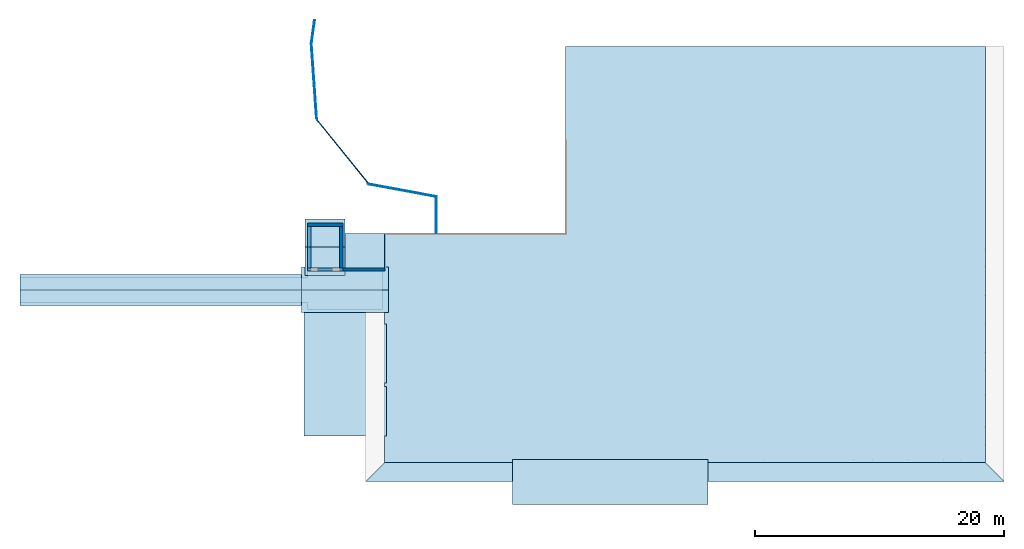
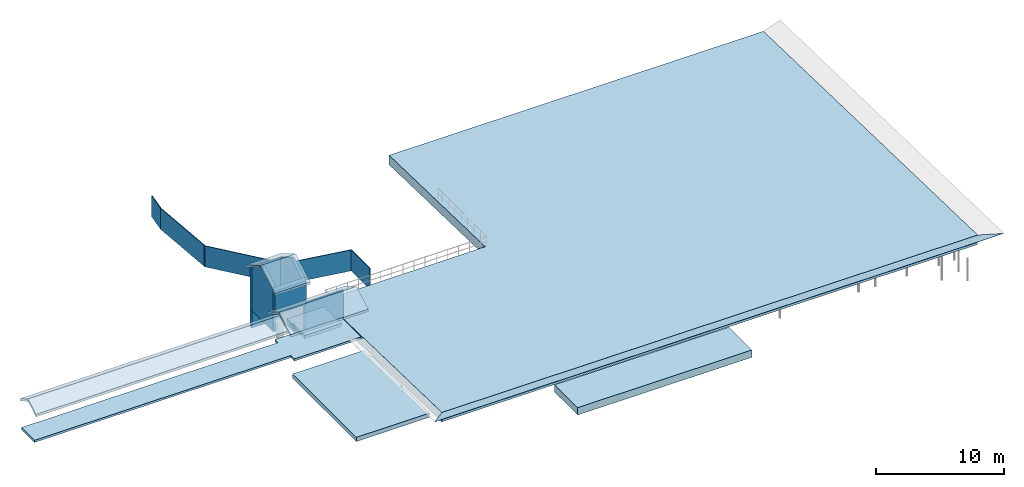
# One storey, part 1 of 7: 12 slabs, 10 walls, 8 elements without a shape of their own.
"""IFC2X3 building model written with IfcOpenShell, lengths in millimetres."""

from ifc_helpers import new_model, entity, si_unit, converted_unit, derived_unit, direction, frame, frame_2d, origin, place, context, subcontext, project, spatial, polyline, rectangle, outline, extrude, clip, bounded_halfspace, faceted_brep, material, layer, layer_set, layer_usage, type_object, element, aggregate, save


model = new_model("IFC2X3")

# Units and contexts
model_context = context("Model", 3, precision=0.01, world=origin(), true_north=direction((0.7716245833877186, 0.6360782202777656)))
body_context = subcontext(model_context, "Body", "Model", "MODEL_VIEW")
ifc_project = project(units=[si_unit("LENGTHUNIT", "METRE", prefix="MILLI"), si_unit("AREAUNIT", "SQUARE_METRE"), converted_unit("PLANEANGLEUNIT", "DEGREE", entity("IfcPlaneAngleMeasure", 0.017453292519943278), si_unit("PLANEANGLEUNIT", "RADIAN"), dimensions=[0, 0, 0, 0, 0, 0, 0]), derived_unit("THERMALTRANSMITTANCEUNIT", [(si_unit("MASSUNIT", "GRAM", prefix="KILO"), 1), (si_unit("THERMODYNAMICTEMPERATUREUNIT", "KELVIN"), -1), (si_unit("TIMEUNIT", "SECOND"), -3)])], contexts=[model_context])

# Site, building, storey
site_placement = place(None, origin())
site = spatial("IfcSite", under=ifc_project, at=site_placement, Name="Default", CompositionType="ELEMENT")
building_placement = place(site_placement, origin())
building = spatial("IfcBuilding", under=site, at=building_placement, CompositionType="ELEMENT")
storey_placement = place(building_placement, frame((0.0, 0.0, 37100.0)))
storey = spatial("IfcBuildingStorey", under=building, at=storey_placement, Name="PLAN 03 (EKS. TAK)", CompositionType="ELEMENT", Elevation=37100.0)

# Roof, slab
ifc_material_1 = material(Name="A_Material_Concrete_Insitu_Beam_Semi-Rough_Grey")
ifc_layer_1 = layer(ifc_material_1, 900.0000000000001)
ifc_layer_set_1 = layer_set([ifc_layer_1], Name="Basic Roof:260 Eksisterende yttertak")
roof_1_placement = place(storey_placement, frame((229767.92444647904, 53060.42057410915, -460.77584108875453)))
roof_1 = element("IfcRoof", 1, at=roof_1_placement, inside=storey, material=ifc_layer_set_1, Name="Basic Roof:260 Eksisterende yttertak", ObjectType="Basic Roof:260 Eksisterende yttertak", ShapeType="NOTDEFINED")
type_product_1 = type_object("IfcTypeProduct", Name="Basic Roof:260 Eksisterende yttertak")
slab_1_placement = place(roof_1_placement, origin())
slab_1 = element("IfcSlab", 2, at=slab_1_placement, type_object=type_product_1, material=ifc_layer_set_1, Name="Basic Roof:260 Eksisterende yttertak", ObjectType="Basic Roof:260 Eksisterende yttertak", PredefinedType="ROOF", context=body_context, shape_type="SweptSolid", body=[
    extrude(outline(polyline([(-9593.915441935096, 1706.3962663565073), (-24150.0, 1706.3962663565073), (-24150.0, -16734.758032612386), (24150.0, -16734.758032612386), (24150.0, 16734.758032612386), (-9593.915441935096, 16734.758032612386), (-9593.915441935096, 1706.3962663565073)])), frame((24150.0, 16729.023448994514, 438.06489596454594), z_axis=(0.0, 0.026176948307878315, 0.9996573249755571), x_axis=(1.0, 0.0, 0.0)), (0.0, -0.026176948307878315, 0.9996573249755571), 900.3085132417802),
])
aggregate(roof_1, [slab_1])

ifc_material_2 = material(Name="<Unnamed>")
ifc_layer_2 = layer(ifc_material_2, 700.0)
ifc_layer_set_2 = layer_set([ifc_layer_2], Name="Basic Roof:260 Generisk yttertak 700 mm")
roof_2_placement = place(storey_placement, frame((240067.924446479, 49702.8292707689, -500.0)))
roof_2 = element("IfcRoof", 3, at=roof_2_placement, inside=storey, material=ifc_layer_set_2, Name="Basic Roof:260 Generisk yttertak 700 mm", ObjectType="Basic Roof:260 Generisk yttertak 700 mm", ShapeType="NOTDEFINED")
type_product_2 = type_object("IfcTypeProduct", Name="Basic Roof:260 Generisk yttertak 700 mm")
slab_2_placement = place(roof_2_placement, origin())
slab_2 = element("IfcSlab", 4, at=slab_2_placement, type_object=type_product_2, material=ifc_layer_set_2, Name="Basic Roof:260 Generisk yttertak 700 mm", ObjectType="Basic Roof:260 Generisk yttertak 700 mm", PredefinedType="ROOF", context=body_context, shape_type="SweptSolid", body=[
    extrude(rectangle(XDim=15699.999999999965, YDim=3600.0000000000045, at=frame_2d((0.0, 4.320099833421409e-12), x_axis=(1.0, 0.0))), frame((7850.0, 1800.0, 0.0)), (0.0, 0.0, 1.0), 700.0000000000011),
])
aggregate(roof_2, [slab_2])

ifc_layer_3 = layer(ifc_material_2, 400.0)
ifc_layer_set_3 = layer_set([ifc_layer_3], Name="Basic Roof:260 Generisk yttertak 400 mm")
roof_3_placement = place(storey_placement, frame((223297.92444647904, 55215.25555007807, -500.0)))
roof_3 = element("IfcRoof", 5, at=roof_3_placement, inside=storey, material=ifc_layer_set_3, Name="Basic Roof:260 Generisk yttertak 400 mm", ObjectType="Basic Roof:260 Generisk yttertak 400 mm", ShapeType="NOTDEFINED")
type_product_3 = type_object("IfcTypeProduct", Name="Basic Roof:260 Generisk yttertak 400 mm")
slab_3_placement = place(roof_3_placement, origin())
slab_3 = element("IfcSlab", 6, at=slab_3_placement, type_object=type_product_3, material=ifc_layer_set_3, Name="Basic Roof:260 Generisk yttertak 400 mm", ObjectType="Basic Roof:260 Generisk yttertak 400 mm", PredefinedType="ROOF", context=body_context, shape_type="SweptSolid", body=[
    extrude(outline(polyline([(-3312.5000000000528, 4980.0), (-3312.5000000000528, -4980.0), (3312.5000000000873, -4980.0), (3312.5000000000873, -1030.0), (3152.500000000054, -1030.0), (3152.500000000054, -730.0), (3312.5000000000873, -730.0), (3312.5000000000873, 4005.0), (3152.500000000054, 4005.0), (3152.500000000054, 4980.0), (-3312.5000000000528, 4980.0)])), frame((3312.5000000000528, 4980.0, 0.0)), (0.0, 0.0, 1.0), 400.0),
])
aggregate(roof_3, [slab_3])

# Roof, slabs
ifc_material_3 = material(Name="Eksist. tak")
ifc_layer_4 = layer(ifc_material_3, 200.0)
ifc_layer_set_4 = layer_set([ifc_layer_4], Name="Basic Roof:260 Generisk yttertak 200 mm")
roof_4_placement = place(storey_placement, frame((223397.92444647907, 68125.25555007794, 5500.0)))
roof_4 = element("IfcRoof", 7, at=roof_4_placement, inside=storey, material=ifc_layer_set_4, Name="Basic Roof:260 Generisk yttertak 200 mm", ObjectType="Basic Roof:260 Generisk yttertak 200 mm", ShapeType="NOTDEFINED")
type_product_4 = type_object("IfcTypeProduct", Name="Basic Roof:260 Generisk yttertak 200 mm")
slab_4_placement = place(roof_4_placement, origin())
slab_4 = element("IfcSlab", 8, at=slab_4_placement, type_object=type_product_4, material=ifc_layer_set_4, Name="Basic Roof:260 Generisk yttertak 200 mm", ObjectType="Basic Roof:260 Generisk yttertak 200 mm", PredefinedType="ROOF", context=body_context, shape_type="SweptSolid", body=[
    extrude(rectangle(XDim=3210.0000000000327, YDim=2609.623216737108, at=frame_2d((1.7394086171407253e-11, 0.0), x_axis=(1.0, 0.0))), frame((1605.0, 3390.0, 652.4058041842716), z_axis=(0.0, 0.4999999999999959, 0.866025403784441), x_axis=(1.0, 0.0, 0.0)), (0.0, -0.4999999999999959, 0.866025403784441), 230.94010767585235),
])
slab_5_placement = place(roof_4_placement, origin())
slab_5 = element("IfcSlab", 9, at=slab_5_placement, type_object=type_product_4, material=ifc_layer_set_4, Name="Basic Roof:260 Generisk yttertak 200 mm", ObjectType="Basic Roof:260 Generisk yttertak 200 mm", PredefinedType="ROOF", context=body_context, shape_type="SweptSolid", body=[
    extrude(rectangle(XDim=2609.6232167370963, YDim=3210.0000000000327, at=frame_2d((1.7394086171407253e-11, 6.0254023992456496e-12), x_axis=(0.0, 1.0))), frame((1605.0, 1130.0, 652.4058041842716), z_axis=(0.0, -0.4999999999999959, 0.866025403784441), x_axis=(1.0, 0.0, 0.0)), (0.0, 0.4999999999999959, 0.866025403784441), 230.94010767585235),
])
aggregate(roof_4, [slab_4, slab_5])

roof_5_placement = place(storey_placement, frame((223102.48212057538, 65118.4674720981, 3500.0)))
roof_5 = element("IfcRoof", 10, at=roof_5_placement, inside=storey, material=ifc_layer_set_4, Name="Basic Roof:260 Generisk yttertak 200 mm", ObjectType="Basic Roof:260 Generisk yttertak 200 mm", ShapeType="NOTDEFINED")
slab_6_placement = place(roof_5_placement, origin())
slab_6 = element("IfcSlab", 11, at=slab_6_placement, type_object=type_product_4, material=ifc_layer_set_4, Name="Basic Roof:260 Generisk yttertak 200 mm", ObjectType="Basic Roof:260 Generisk yttertak 200 mm", PredefinedType="ROOF", context=body_context, shape_type="SweptSolid", body=[
    extrude(rectangle(XDim=2111.247581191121, YDim=7000.442325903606, at=frame_2d((0.0, 5.9117155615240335e-12), x_axis=(0.0, 1.0))), frame((3500.221162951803, 914.1970194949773, 527.8118952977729), z_axis=(0.0, -0.4999999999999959, 0.866025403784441), x_axis=(1.0, 0.0, 0.0)), (0.0, 0.4999999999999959, 0.866025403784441), 230.94010767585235),
])
slab_7_placement = place(roof_5_placement, origin())
slab_7 = element("IfcSlab", 12, at=slab_7_placement, type_object=type_product_4, material=ifc_layer_set_4, Name="Basic Roof:260 Generisk yttertak 200 mm", ObjectType="Basic Roof:260 Generisk yttertak 200 mm", PredefinedType="ROOF", context=body_context, shape_type="SweptSolid", body=[
    extrude(outline(polyline([(-3500.221162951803, -1055.6237905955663), (3500.221162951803, -1055.6237905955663), (3500.221162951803, 1055.6237905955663), (-154.7788370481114, 1055.6237905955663), (-154.7788370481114, 686.1196183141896), (-3004.7788370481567, 686.1196183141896), (-3004.7788370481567, 1055.6237905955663), (-3500.221162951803, 1055.6237905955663), (-3500.221162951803, -1055.6237905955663)])), frame((3500.221162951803, 2742.5910584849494, 527.8118952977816), z_axis=(0.0, 0.4999999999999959, 0.866025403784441), x_axis=(1.0, 0.0, 0.0)), (0.0, -0.4999999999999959, 0.866025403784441), 230.94010767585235),
])
aggregate(roof_5, [slab_6, slab_7])

roof_6_placement = place(storey_placement, frame((200482.282663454, 65698.46747209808, 3484.8631561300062)))
roof_6 = element("IfcRoof", 13, at=roof_6_placement, inside=storey, material=ifc_layer_set_4, Name="Basic Roof:260 Generisk yttertak 200 mm", ObjectType="Basic Roof:260 Generisk yttertak 200 mm", ShapeType="NOTDEFINED")
slab_8_placement = place(roof_6_placement, origin())
slab_8 = element("IfcSlab", 14, at=slab_8_placement, type_object=type_product_4, material=ifc_layer_set_4, Name="Basic Roof:260 Generisk yttertak 200 mm", ObjectType="Basic Roof:260 Generisk yttertak 200 mm", PredefinedType="ROOF", context=body_context, shape_type="SweptSolid", body=[
    extrude(rectangle(XDim=22909.64178302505, YDim=1441.5212689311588, at=frame_2d((-1.7280399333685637e-11, 0.0), x_axis=(1.0, 0.0))), frame((11454.820891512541, 1872.5910584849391, 360.38031723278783), z_axis=(0.0, 0.4999999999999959, 0.866025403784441), x_axis=(1.0, 0.0, 0.0)), (0.0, -0.4999999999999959, 0.866025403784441), 230.94010767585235),
])
slab_9_placement = place(roof_6_placement, origin())
slab_9 = element("IfcSlab", 15, at=slab_9_placement, type_object=type_product_4, material=ifc_layer_set_4, Name="Basic Roof:260 Generisk yttertak 200 mm", ObjectType="Basic Roof:260 Generisk yttertak 200 mm", PredefinedType="ROOF", context=body_context, shape_type="SweptSolid", body=[
    extrude(rectangle(XDim=1441.521268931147, YDim=22909.64178302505, at=frame_2d((-1.7280399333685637e-11, 5.9685589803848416e-12), x_axis=(0.0, 1.0))), frame((11454.820891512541, 624.1970194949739, 360.38031723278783), z_axis=(0.0, -0.4999999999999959, 0.866025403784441), x_axis=(1.0, 0.0, 0.0)), (0.0, 0.4999999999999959, 0.866025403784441), 230.94010767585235),
])
aggregate(roof_6, [slab_8, slab_9])

# Slab
ifc_material_4 = material(Name="VINYL LYS")
ifc_layer_5 = layer(ifc_material_4, 200.0)
ifc_layer_set_5 = layer_set([ifc_layer_5], Name="Floor:250 Generisk dekke 200 mm")
ifc_layer_usage_1 = layer_usage(ifc_layer_set_5, "AXIS3", "POSITIVE", 0.0)
slab_type = type_object("IfcSlabType", Name="Floor:250 Generisk dekke 200 mm", PredefinedType="FLOOR", material=ifc_layer_set_5)
slab_10_placement = place(storey_placement, origin())
element("IfcSlab", 16, at=slab_10_placement, inside=storey, type_object=slab_type, material=ifc_layer_usage_1, Name="Floor:250 Generisk dekke 200 mm", ObjectType="Floor:250 Generisk dekke 200 mm", PredefinedType="FLOOR", context=body_context, shape_type="SweptSolid", body=[
    extrude(outline(polyline([(-1000.3462003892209, -18837.981337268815), (1030.115400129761, -18837.981337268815), (1030.115400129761, 4277.660445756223), (1520.1154001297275, 4277.660445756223), (1520.1154001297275, 10282.660445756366), (-1549.884599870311, 10282.660445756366), (-1549.8845998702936, 4277.660445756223), (-1000.3462003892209, 4277.660445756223), (-1000.3462003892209, -18837.981337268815)])), frame((219320.26400072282, 66935.14014994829, 1100.0), z_axis=(0.0, 0.0, -1.0), x_axis=(0.0, 1.0, 0.0)), (0.0, 0.0, 1.0), 200.0000000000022),
])

# Roof, slab
ifc_material_5 = material(Name="Gitter")
ifc_layer_6 = layer(ifc_material_5, 10.0)
ifc_layer_set_6 = layer_set([ifc_layer_6], Name="Basic Roof:260 Gitter 10mm")
roof_7_placement = place(storey_placement, frame((228267.924446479, 51560.42057410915, 1305.0206863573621)))
roof_7 = element("IfcRoof", 17, at=roof_7_placement, inside=storey, material=ifc_layer_set_6, Name="Basic Roof:260 Gitter 10mm", ObjectType="Basic Roof:260 Gitter 10mm", ShapeType="NOTDEFINED")
type_product_5 = type_object("IfcTypeProduct", Name="Basic Roof:260 Gitter 10mm")
slab_11_placement = place(roof_7_placement, origin())
slab_11 = element("IfcSlab", 18, at=slab_11_placement, type_object=type_product_5, material=ifc_layer_set_6, Name="Basic Roof:260 Gitter 10mm", ObjectType="Basic Roof:260 Gitter 10mm", PredefinedType="ROOF", context=body_context, shape_type="SweptSolid", body=[
    extrude(outline(polyline([(24150.0, 798.1333293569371), (-24150.0, 798.1333293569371), (-25650.0, -798.1333293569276), (25650.0, -798.1333293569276), (24150.0, 798.1333293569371)])), frame((25650.0, 750.0, 272.9776756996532), z_axis=(0.0, 0.3420201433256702, 0.9396926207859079), x_axis=(1.0, 0.0, 0.0)), (0.0, -0.3420201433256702, 0.9396926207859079), 10.641777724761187),
])
aggregate(roof_7, [slab_11])

ifc_layer_7 = layer(ifc_material_3, 300.0)
ifc_layer_set_7 = layer_set([ifc_layer_7], Name="Basic Roof:260 Generisk yttertak 300 mm")
roof_8_placement = place(storey_placement, frame((226447.9244464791, 68715.25555007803, -67.37919198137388)))
roof_8 = element("IfcRoof", 19, at=roof_8_placement, inside=storey, material=ifc_layer_set_7, Name="Basic Roof:260 Generisk yttertak 300 mm", ObjectType="Basic Roof:260 Generisk yttertak 300 mm", ShapeType="NOTDEFINED")
type_product_6 = type_object("IfcTypeProduct", Name="Basic Roof:260 Generisk yttertak 300 mm")
slab_12_placement = place(roof_8_placement, origin())
slab_12 = element("IfcSlab", 20, at=slab_12_placement, type_object=type_product_6, material=ifc_layer_set_7, Name="Basic Roof:260 Generisk yttertak 300 mm", ObjectType="Basic Roof:260 Generisk yttertak 300 mm", PredefinedType="ROOF", context=body_context, shape_type="SweptSolid", body=[
    extrude(rectangle(XDim=3319.999999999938, YDim=2780.952963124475, at=frame_2d((0.0, 4.320099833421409e-12), x_axis=(-1.0, 0.0))), frame((1660.0, 1390.0, 36.39843098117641), z_axis=(0.0, 0.026176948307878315, 0.9996573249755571), x_axis=(1.0, 0.0, 0.0)), (0.0, -0.026176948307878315, 0.9996573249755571), 300.1028377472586),
])
aggregate(roof_8, [slab_12])

# Walls
ifc_material_6 = material(Name="Beige Fasadeplater")
ifc_layer_8 = layer(ifc_material_6, 10.0)
ifc_material_7 = material(Name="Eksist. vegg")
ifc_layer_9 = layer(ifc_material_7, 260.0)
ifc_layer_set_8 = layer_set([ifc_layer_8, ifc_layer_9], Name="Basic Wall:230 Eksist. yttervegg 270 mm")
ifc_layer_usage_2 = layer_usage(ifc_layer_set_8, "AXIS2", "NEGATIVE", 135.0)
wall_type_1 = type_object("IfcWallType", Name="Basic Wall:230 Eksist. yttervegg 270 mm", PredefinedType="STANDARD", material=ifc_layer_set_8)
wall_1_placement = place(storey_placement, frame((226312.9244464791, 72045.2555500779, 0.0), z_axis=(0.0, 0.0, 1.0), x_axis=(0.0, -1.0, 0.0)))
element("IfcWallStandardCase", 21, at=wall_1_placement, inside=storey, type_object=wall_type_1, material=ifc_layer_usage_2, Name="Basic Wall:230 Eksist. yttervegg 270 mm", ObjectType="Basic Wall:230 Eksist. yttervegg 270 mm", context=body_context, shape_type="Clipping", body=[
    clip(clip(clip(clip(extrude(rectangle(XDim=3589.999999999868, YDim=269.9999999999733, at=frame_2d((1794.999999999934, 0.0), x_axis=(-1.0, 0.0))), origin(), (0.0, 0.0, 1.0), 6804.81160836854), bounded_halfspace(frame((0.0, -135.0, 5846.4101615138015), z_axis=(-0.4999999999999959, 0.0, 0.866025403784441), x_axis=(0.0, -1.0, 0.0)), False, frame((0.0, -135.0, 5846.4101615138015)), polyline([(0.0, 0.0), (1660.0, 0.0), (1660.0, 270.0), (0.0, 270.0), (0.0, 0.0)]))), bounded_halfspace(frame((1660.0, 135.0, 6804.811608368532), z_axis=(0.4999999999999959, 0.0, 0.866025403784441), x_axis=(0.0, 1.0, 0.0)), False, frame((1660.0, 135.0, 6804.811608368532)), polyline([(0.0, 0.0), (0.0, -270.0), (1660.0, -270.0), (1660.0, 0.0), (0.0, 0.0)]))), bounded_halfspace(frame((3320.0, -135.0, 3440.0), z_axis=(-1.0, 0.0, 0.0), x_axis=(0.0, -1.0, 0.0)), True, frame((3320.0, -135.0, 3440.0), z_axis=(-1.0, 0.0, 0.0), x_axis=(0.0, -1.0, 0.0)), polyline([(0.0, 0.0), (0.0, 733473.8172294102), (-82296.0, 733473.8172294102), (-82296.0, 0.0), (0.0, 0.0)]))), bounded_halfspace(frame((3320.0, 135.0, 3440.0), z_axis=(0.0, 0.0, -1.0), x_axis=(1.0, 0.0, 0.0)), True, frame((3320.0, 135.0, 3440.0), z_axis=(0.0, 0.0, -1.0), x_axis=(1.0, 0.0, 0.0)), polyline([(0.0, 0.0), (270.0, 0.0), (270.0, 270.0), (10.0, 270.0), (0.0, 270.0), (0.0, 0.0)]))),
])
ifc_layer_usage_3 = layer_usage(ifc_layer_set_8, "AXIS2", "NEGATIVE", 135.0)
wall_2_placement = place(storey_placement, frame((226447.9244464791, 68590.25555007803, 3440.0), z_axis=(0.0, 0.0, 1.0), x_axis=(-1.0, 0.0, 0.0)))
element("IfcWallStandardCase", 22, at=wall_2_placement, inside=storey, type_object=wall_type_1, material=ifc_layer_usage_3, Name="Basic Wall:230 Eksist. yttervegg 270 mm", ObjectType="Basic Wall:230 Eksist. yttervegg 270 mm", context=body_context, shape_type="Clipping", body=[
    clip(clip(clip(extrude(rectangle(XDim=2850.0000000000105, YDim=270.00000000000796, at=frame_2d((1425.0000000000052, 1.6484591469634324e-12), x_axis=(-1.0, 0.0))), origin(), (0.0, 0.0, 1.0), 2406.4101615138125), bounded_halfspace(frame((2850.0, 135.0, 2250.525588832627), z_axis=(0.0, 0.4999999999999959, 0.866025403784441), x_axis=(-1.0, 0.0, 0.0)), False, frame((2850.0, 135.0, 2250.525588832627)), polyline([(0.0, 0.0), (-2850.0, 0.0), (-2850.0, -270.0), (-2580.0, -270.0), (-270.0, -270.0), (-270.0, -266.0), (0.0, -266.0), (0.0, 0.0)]))), bounded_halfspace(frame((2580.0, -131.0, 0.0), z_axis=(-1.0, 0.0, 0.0), x_axis=(0.0, -1.0, 0.0)), True, frame((2580.0, -131.0, 0.0), z_axis=(-1.0, 0.0, 0.0), x_axis=(0.0, -1.0, 0.0)), polyline([(0.0, 0.0), (1219.1999999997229, 0.0), (1219.1999999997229, 733473.8172294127), (0.0, 732769.9117812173), (0.0, 0.0)]))), bounded_halfspace(frame((2580.0, -131.0, 2404.1007604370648), z_axis=(0.0, -1.0, 0.0), x_axis=(1.0, 0.0, 0.0)), False, frame((2580.0, -131.0, 2404.1007604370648), z_axis=(0.0, -1.0, 0.0), x_axis=(1.0, 0.0, 0.0)), polyline([(0.0, 0.0), (0.0, -732769.9117812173), (82296.0, -732769.9117812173), (82296.0, 0.0), (0.0, 0.0)]))),
])
ifc_layer_usage_4 = layer_usage(ifc_layer_set_8, "AXIS2", "NEGATIVE", 135.0)
wall_3_placement = place(storey_placement, frame((223597.92444647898, 72180.2555500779, 0.0)))
element("IfcWallStandardCase", 23, at=wall_3_placement, inside=storey, type_object=wall_type_1, material=ifc_layer_usage_4, Name="Basic Wall:230 Eksist. yttervegg 270 mm", ObjectType="Basic Wall:230 Eksist. yttervegg 270 mm", context=body_context, shape_type="Clipping", body=[
    clip(extrude(rectangle(XDim=2850.000000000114, YDim=270.00000000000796, at=frame_2d((1425.000000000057, 9.094947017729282e-13), x_axis=(-1.0, 0.0))), origin(), (0.0, 0.0, 1.0), 5846.410161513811), bounded_halfspace(frame((0.0, -135.0, 5846.4101615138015), z_axis=(0.0, 0.4999999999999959, 0.866025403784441), x_axis=(-1.0, 0.0, 0.0)), False, frame((0.0, -135.0, 5846.4101615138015)), polyline([(0.0, 0.0), (270.0, 0.0), (2580.0, 0.0), (2850.0, 0.0), (2850.0, 270.0), (0.0, 270.0), (0.0, 0.0)]))),
])
wall_4_placement = place(storey_placement, frame((223732.9244464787, 68715.25555007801, 1650.0), z_axis=(0.0, 0.0, 1.0), x_axis=(0.0, 1.0, 0.0)))
element("IfcWall", 24, at=wall_4_placement, inside=storey, type_object=wall_type_1, Name="Basic Wall:230 Eksist. yttervegg 270 mm", ObjectType="Basic Wall:230 Eksist. yttervegg 270 mm", context=body_context, shape_type="Brep", body=[
    faceted_brep([(6.0, -135.0, 1790.0), (0.0, -135.0, 1790.0), (0.0, -135.0, 900.0), (10.0, -135.0, 900.0), (10.0, -135.0, 0.0), (3330.0, -135.0, 0.0), (3330.0, -135.0, 4196.4101615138), (1670.0, -135.0, 5154.811608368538), (10.0, -135.0, 4196.410161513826), (6.0, -135.0, 4194.10076043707), (0.0, 135.0, 1790.0), (6.0, 135.0, 1790.0), (6.0, 135.0, 4194.10076043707), (1670.0, 135.0, 5154.811608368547), (3330.0, 135.0, 4196.4101615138), (3330.0, 135.0, 0.0), (10.0, 135.0, 0.0), (10.0, 135.0, 900.0), (0.0, 135.0, 900.0)], [[[0, 1, 2, 3, 4, 5, 6, 7, 8, 9]], [[10, 11, 12, 13, 14, 15, 16, 17, 18]], [[14, 6, 5, 15]], [[11, 10, 1, 0]], [[1, 10, 18, 2]], [[9, 12, 11, 0]], [[12, 9, 8, 7, 13]], [[6, 14, 13, 7]], [[4, 16, 15, 5]], [[17, 3, 2, 18]], [[16, 4, 3, 17]]]),
])
ifc_layer_10 = layer(ifc_material_6, 10.0)
ifc_material_8 = material(Name="_Maling hvit")
ifc_layer_11 = layer(ifc_material_8, 250.00000000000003)
ifc_layer_set_9 = layer_set([ifc_layer_10, ifc_layer_11], Name="Basic Wall:230 Eksist. Yttervegg 260 mm")
wall_type_2 = type_object("IfcWallType", Name="Basic Wall:230 Eksist. Yttervegg 260 mm", PredefinedType="STANDARD", material=ifc_layer_set_9)
wall_5_placement = place(storey_placement, frame((226312.9244464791, 68585.25555007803, 0.0)))
element("IfcWall", 25, at=wall_5_placement, inside=storey, type_object=wall_type_2, Name="Basic Wall:230 Eksist. Yttervegg 260 mm", ObjectType="Basic Wall:230 Eksist. Yttervegg 260 mm", context=body_context, shape_type="Brep", body=[
    faceted_brep([(0.0, -130.0, 0.0), (3496.0, -130.0, 0.0), (3496.0, -130.0, 3684.75208614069), (135.0, -130.0, 3684.75208614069), (135.0, -130.0, 3534.548913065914), (0.0, -130.0, 3534.548913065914), (0.0, 130.0, 0.0), (0.0, 130.0, 3534.548913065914), (135.0, 130.0, 3534.6410161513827), (3496.0, 130.0, 3534.6410161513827), (3496.0, 130.0, 0.0), (135.0, 130.0, 3534.548913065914)], [[[0, 1, 2, 3, 4, 5]], [[6, 7, 8, 9, 10]], [[1, 0, 6, 10]], [[2, 1, 10, 9]], [[3, 2, 9, 8]], [[0, 5, 7, 6]], [[4, 11, 7, 5]], [[4, 3, 11]]]),
])
ifc_material_9 = material(Name="Aluminum fasade")
ifc_layer_12 = layer(ifc_material_9, 70.0)
ifc_layer_set_10 = layer_set([ifc_layer_12], Name="Basic Wall:232 Stålvegg 70 mm")
ifc_layer_usage_5 = layer_usage(ifc_layer_set_10, "AXIS2", "NEGATIVE", 35.0)
wall_type_3 = type_object("IfcWallType", Name="Basic Wall:232 Stålvegg 70 mm", PredefinedType="STANDARD", material=ifc_layer_set_10)
wall_6_placement = place(storey_placement, frame((233945.76029792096, 74483.37679894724, 400.0), z_axis=(0.0, 0.0, 1.0), x_axis=(0.0, -1.0, 0.0)))
element("IfcWallStandardCase", 26, at=wall_6_placement, inside=storey, type_object=wall_type_3, material=ifc_layer_usage_5, Name="Basic Wall:232 Stålvegg 70 mm", ObjectType="Basic Wall:232 Stålvegg 70 mm", context=body_context, shape_type="SweptSolid", body=[
    extrude(outline(polyline([(2988.121248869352, -35.0), (2988.121248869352, 35.0), (12.921946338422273, 35.0), (0.0, -35.0), (71.18269942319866, -35.0), (2988.121248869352, -35.0)])), origin(), (0.0, 0.0, 1.0), 1999.999999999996),
])
ifc_layer_usage_6 = layer_usage(ifc_layer_set_10, "AXIS2", "NEGATIVE", 35.0)
wall_7_placement = place(storey_placement, frame((228440.5619805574, 75457.5798652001, 400.0), z_axis=(0.0, 0.0, 1.0), x_axis=(0.9833850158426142, -0.18153212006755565, 0.0)))
element("IfcWallStandardCase", 27, at=wall_7_placement, inside=storey, type_object=wall_type_3, material=ifc_layer_usage_6, Name="Basic Wall:232 Stålvegg 70 mm", ObjectType="Basic Wall:232 Stålvegg 70 mm", context=body_context, shape_type="SweptSolid", body=[
    extrude(outline(polyline([(5569.082153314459, -35.0), (5556.160206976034, 35.0), (107.81202381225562, 35.0), (0.0, 35.0), (81.99653942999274, -35.0), (5569.082153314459, -35.0)])), origin(), (0.0, 0.0, 1.0), 1999.999999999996),
])
ifc_layer_usage_7 = layer_usage(ifc_layer_set_10, "AXIS2", "NEGATIVE", 35.0)
wall_8_placement = place(storey_placement, frame((224263.86764547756, 80703.28102650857, 400.0), z_axis=(0.0, 0.0, 1.0), x_axis=(0.6300495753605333, -0.7765549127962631, 0.0)))
element("IfcWallStandardCase", 28, at=wall_8_placement, inside=storey, type_object=wall_type_3, material=ifc_layer_usage_7, Name="Basic Wall:232 Stålvegg 70 mm", ObjectType="Basic Wall:232 Stålvegg 70 mm", context=body_context, shape_type="SweptSolid", body=[
    extrude(outline(polyline([(6682.374762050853, -35.0), (6764.371301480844, 35.0), (0.0, 35.0), (99.91449530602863, -35.0), (6682.374762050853, -35.0)])), origin(), (0.0, 0.0, 1.0), 1999.999999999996),
])
ifc_layer_usage_8 = layer_usage(ifc_layer_set_10, "AXIS2", "NEGATIVE", 35.0)
wall_9_placement = place(storey_placement, frame((223900.8060658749, 86749.28715327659, 400.0), z_axis=(0.0, 0.0, 1.0), x_axis=(0.07043079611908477, -0.9975166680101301, 0.0)))
element("IfcWallStandardCase", 29, at=wall_9_placement, inside=storey, type_object=wall_type_3, material=ifc_layer_usage_8, Name="Basic Wall:232 Stålvegg 70 mm", ObjectType="Basic Wall:232 Stålvegg 70 mm", context=body_context, shape_type="SweptSolid", body=[
    extrude(outline(polyline([(6036.47989740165, -35.0), (6136.394392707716, 35.0), (7.283423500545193, 35.0), (0.0, -35.0), (6036.47989740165, -35.0)])), origin(), (0.0, 0.0, 1.0), 1999.999999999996),
])
ifc_layer_usage_9 = layer_usage(ifc_layer_set_10, "AXIS2", "NEGATIVE", 35.0)
wall_10_placement = place(storey_placement, frame((224161.46937748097, 88636.44856168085, 400.0), z_axis=(0.0, 0.0, 1.0), x_axis=(-0.13643566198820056, -0.9906489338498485, 0.0)))
element("IfcWallStandardCase", 30, at=wall_10_placement, inside=storey, type_object=wall_type_3, material=ifc_layer_usage_9, Name="Basic Wall:232 Stålvegg 70 mm", ObjectType="Basic Wall:232 Stålvegg 70 mm", context=body_context, shape_type="SweptSolid", body=[
    extrude(outline(polyline([(1912.2836251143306, -35.0), (1905.0002016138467, 35.0), (0.0, 35.0), (0.0, -35.0), (1912.2836251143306, -35.0)])), origin(), (0.0, 0.0, 1.0), 1999.999999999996),
])

save(model, "model.ifc")
